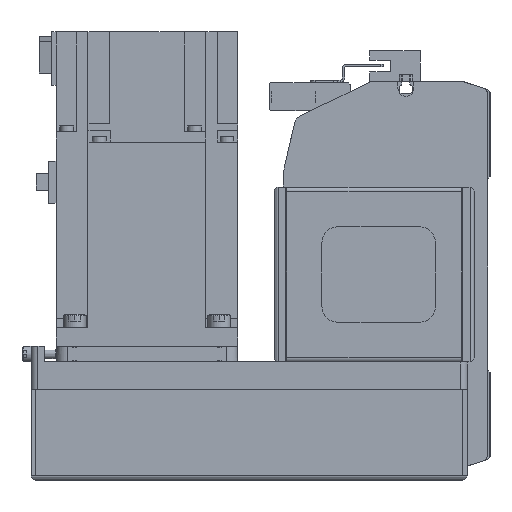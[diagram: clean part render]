
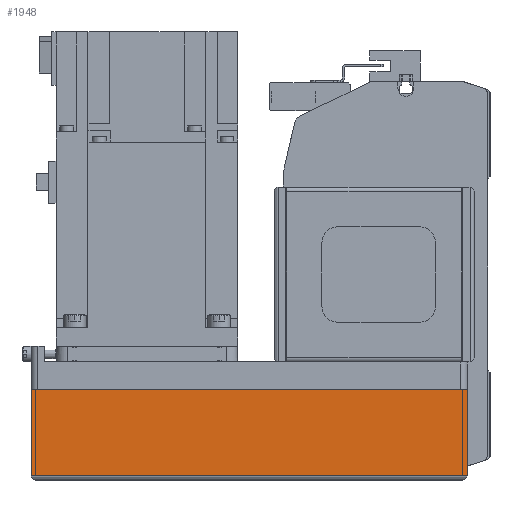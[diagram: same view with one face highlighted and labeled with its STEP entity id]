
A CAD part, left-side view. The second image highlights one B-rep face of the part: STEP entity #1948.
In plain terms, the highlighted planar face has unit normal (-1, 0, 0) as drawn and (0, -1, 0) by its records, which use the part's own axes.
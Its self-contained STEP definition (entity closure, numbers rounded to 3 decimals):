
#1948 = ADVANCED_FACE( '', ( #4535 ), #4536, .T. );
#4535 = FACE_OUTER_BOUND( '', #7905, .T. );
#4536 = PLANE( '', #7906 );
#7905 = EDGE_LOOP( '', ( #13344, #13345, #13346, #13347 ) );
#7906 = AXIS2_PLACEMENT_3D( '', #13348, #13349, #13350 );
#13344 = ORIENTED_EDGE( '', *, *, #20813, .F. );
#13345 = ORIENTED_EDGE( '', *, *, #19595, .F. );
#13346 = ORIENTED_EDGE( '', *, *, #21011, .T. );
#13347 = ORIENTED_EDGE( '', *, *, #21012, .T. );
#13348 = CARTESIAN_POINT( '', ( -192., -40., -12.1 ) );
#13349 = DIRECTION( '', ( 0., -1., 0. ) );
#13350 = DIRECTION( '', ( 0., 0., -1. ) );
#19595 = EDGE_CURVE( '', #22882, #23495, #23496, .T. );
#20813 = EDGE_CURVE( '', #23495, #25506, #25507, .T. );
#21011 = EDGE_CURVE( '', #22882, #25814, #25815, .T. );
#21012 = EDGE_CURVE( '', #25814, #25506, #25816, .T. );
#22882 = VERTEX_POINT( '', #28220 );
#23495 = VERTEX_POINT( '', #29043 );
#23496 = LINE( '', #29044, #29045 );
#25506 = VERTEX_POINT( '', #32308 );
#25507 = LINE( '', #32309, #32310 );
#25814 = VERTEX_POINT( '', #32775 );
#25815 = LINE( '', #32776, #32777 );
#25816 = LINE( '', #32778, #32779 );
#28220 = CARTESIAN_POINT( '', ( -192., -40., -12.1 ) );
#29043 = CARTESIAN_POINT( '', ( 0., -40., -12.1 ) );
#29044 = CARTESIAN_POINT( '', ( -192., -40., -12.1 ) );
#29045 = VECTOR( '', #36379, 1000. );
#32308 = CARTESIAN_POINT( '', ( 0., -40., -50. ) );
#32309 = CARTESIAN_POINT( '', ( 0., -40., -12.1 ) );
#32310 = VECTOR( '', #37885, 1000. );
#32775 = CARTESIAN_POINT( '', ( -192., -40., -50. ) );
#32776 = CARTESIAN_POINT( '', ( -192., -40., -12.1 ) );
#32777 = VECTOR( '', #38154, 1000. );
#32778 = CARTESIAN_POINT( '', ( -192., -40., -50. ) );
#32779 = VECTOR( '', #38155, 1000. );
#36379 = DIRECTION( '', ( 1., 0., 0. ) );
#37885 = DIRECTION( '', ( 0., 0., -1. ) );
#38154 = DIRECTION( '', ( 0., 0., -1. ) );
#38155 = DIRECTION( '', ( 1., 0., 0. ) );
